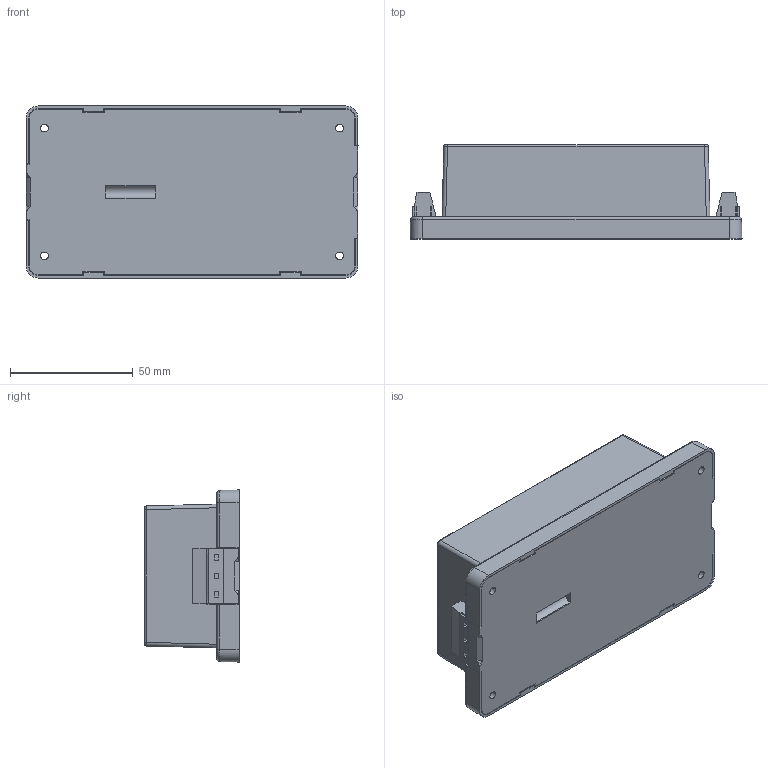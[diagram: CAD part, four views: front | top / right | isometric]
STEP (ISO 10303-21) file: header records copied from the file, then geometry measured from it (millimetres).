
FILE_DESCRIPTION((''),'2;1');
FILE_NAME('PV40-29BXXR3A5_ASM','2023-02-28T',('pe205'),(''),'PRO/ENGINEER BY PARAMETRIC TECHNOLOGY CORPORATION, 2014000','PRO/ENGINEER BY PARAMETRIC TECHNOLOGY CORPORATION, 2014000','');
FILE_SCHEMA(('CONFIG_CONTROL_DESIGN'));
Length unit declared in the file: millimetre
Products named in the file (22): LD60_40F_1_1_2_1; BOTTOM_CASE_2_2_1; PRT0007; ASM0003_ASM; ASM0002_ASM; 11050074_LHE60_M_-A_1_4_2_1; LHE60-23BXX_ASM_1_ASM_2_ASM_1_A_ASM; LHE60-23BXX_ASM_4_ASM_1_ASM_1_ASM; LHE60-23BXX_ASM_ASM_5_ASM_1_ASM; MANIFOLD_SOLID_BREP_618734_1; MANIFOLD_SOLID_BREP_618954_1; MANIFOLD_SOLID_BREP_619174_1; PRT0001_3_ASM_1_ASM; MANIFOLD_SOLID_BREP_621499_1; MANIFOLD_SOLID_BREP_621719_1; MANIFOLD_SOLID_BREP_621939_1; PRT0001-1_2_ASM_1_ASM; LH40_60_ASM_ASM_1_ASM_ASM_5_ASM_ASM; LH40_60_0520_ASM_ASM_3_ASM_1_ASM; 0-LH40_60_0520-TZFZ_ASM_12_ASM__ASM; PV40-29BXXR3_ASM_1_ASM; PV40-29BXXR3A5_ASM
Assembly tree (21 placements, depth 11):
  PV40-29BXXR3A5_ASM
    PV40-29BXXR3_ASM_1_ASM
      0-LH40_60_0520-TZFZ_ASM_12_ASM__ASM
        LH40_60_0520_ASM_ASM_3_ASM_1_ASM
          LH40_60_ASM_ASM_1_ASM_ASM_5_ASM_ASM
            LD60_40F_1_1_2_1
            BOTTOM_CASE_2_2_1
            LHE60-23BXX_ASM_ASM_5_ASM_1_ASM
              LHE60-23BXX_ASM_4_ASM_1_ASM_1_ASM
                LHE60-23BXX_ASM_1_ASM_2_ASM_1_A_ASM
                  ASM0002_ASM
                  11050074_LHE60_M_-A_1_4_2_1
            PRT0001_3_ASM_1_ASM
              MANIFOLD_SOLID_BREP_618734_1
              MANIFOLD_SOLID_BREP_618954_1
              MANIFOLD_SOLID_BREP_619174_1
            PRT0001-1_2_ASM_1_ASM
              MANIFOLD_SOLID_BREP_621499_1
              MANIFOLD_SOLID_BREP_621719_1
              MANIFOLD_SOLID_BREP_621939_1
Bounding box: 135 x 38.3 x 70 mm (x, y, z)
Volume: 234651.5 mm3; surface area: 86988.1 mm2
Topology: 10 solids, 10 shells, 894 faces, 2516 edges, 1680 vertices
Faces by surface type: plane 639, cylinder 173, torus 32, cone 24, extrusion 18, bspline 4, sphere 4
Entity records: 31471 total; most frequent: CARTESIAN_POINT 5963, ORIENTED_EDGE 5032, DIRECTION 4797, EDGE_CURVE 2516, VECTOR 1931, LINE 1913, VERTEX_POINT 1680, AXIS2_PLACEMENT_3D 1433
